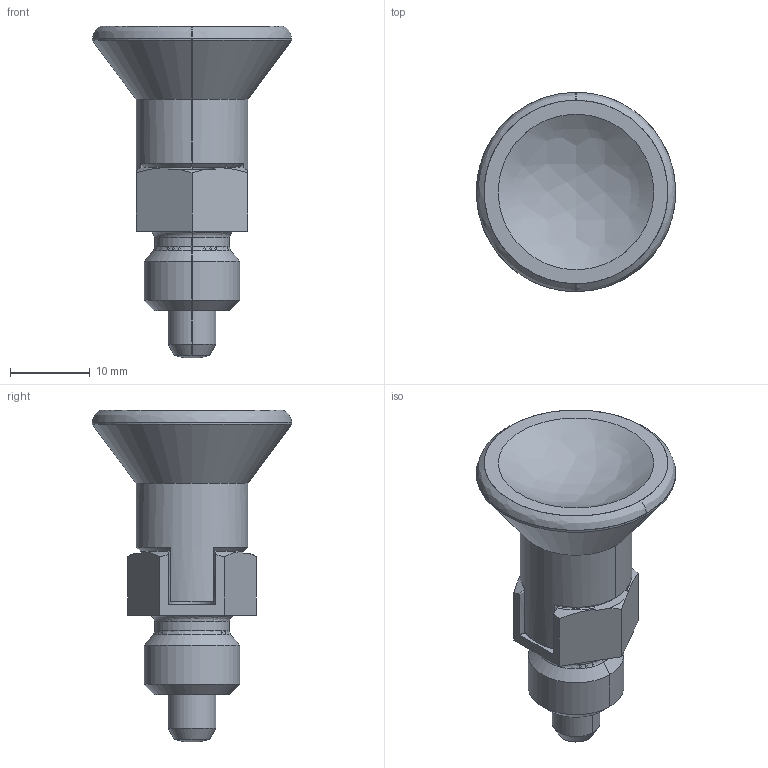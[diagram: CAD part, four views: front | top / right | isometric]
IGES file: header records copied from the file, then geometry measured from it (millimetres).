
Start section: SolidWorks IGES file using analytic representation for surfaces
Global section: file name: X:\11_SW2020-Inv2020\00_全2021-11新製品まで\n\NDXCS12AL-SUS\ndxcs12al-sus.IGS; native system: SolidWorks 2020; preprocessor: SolidWorks 2020; author: ImaoCorp; date: 211026.130623; units: millimetre
Bounding box: 25 x 25 x 41.6 mm (x, y, z)
Surface area: 2899.1 mm2 (no closed solid volume)
Topology: 0 solids, 0 shells, 66 faces, 770 edges, 770 vertices
Faces by surface type: revolution 35, bspline 31
